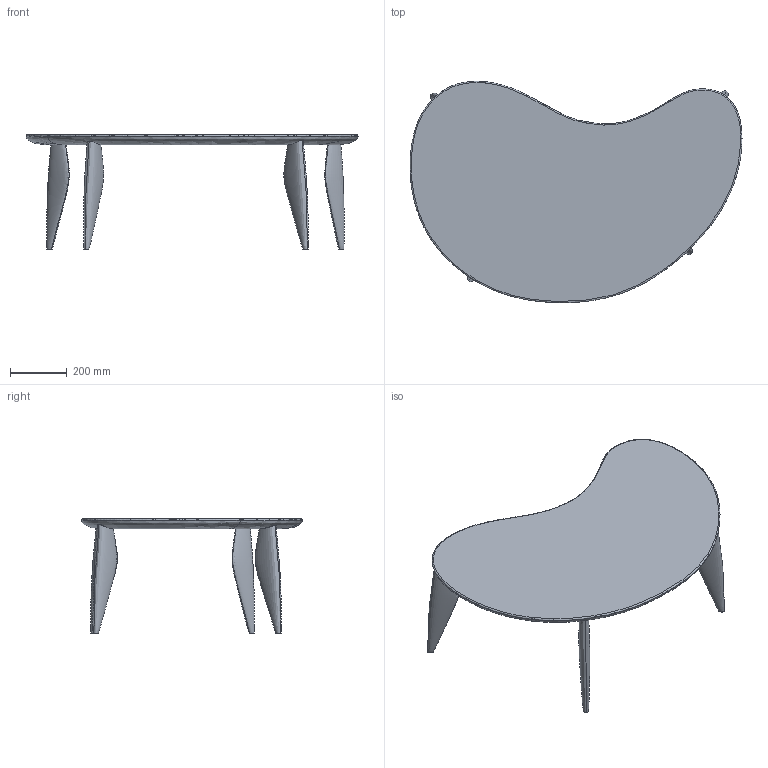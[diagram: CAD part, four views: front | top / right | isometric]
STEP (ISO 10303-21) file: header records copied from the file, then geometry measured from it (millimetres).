
FILE_DESCRIPTION(/* description */ (''),/* implementation_level */ '2;1');
FILE_NAME(/* name */ 'Feve Coffee Table_Ferm Living_3D',/* time_stamp */ '2023-03-20T11:29:05+01:00',/* author */ (''),/* organization */ (''),/* preprocessor_version */ 'ST-DEVELOPER v16.5',/* originating_system */ 'Rhino 7.27',/* authorisation */ '');
FILE_SCHEMA (('CONFIG_CONTROL_DESIGN'));
Length unit declared in the file: millimetre
Products named in the file (1): Document
Bounding box: 1169.89 x 779.9 x 402.76 mm (x, y, z)
Volume: 25233212.5 mm3; surface area: 1688939.3 mm2
Topology: 5 solids, 5 shells, 26 faces, 46 edges, 30 vertices
Faces by surface type: bspline 16, plane 10
Entity records: 46528 total; most frequent: CARTESIAN_POINT 46112, ORIENTED_EDGE 92, EDGE_CURVE 46, B_SPLINE_CURVE_WITH_KNOTS 32, VERTEX_POINT 30, ADVANCED_FACE 26, FACE_OUTER_BOUND 26, EDGE_LOOP 26
